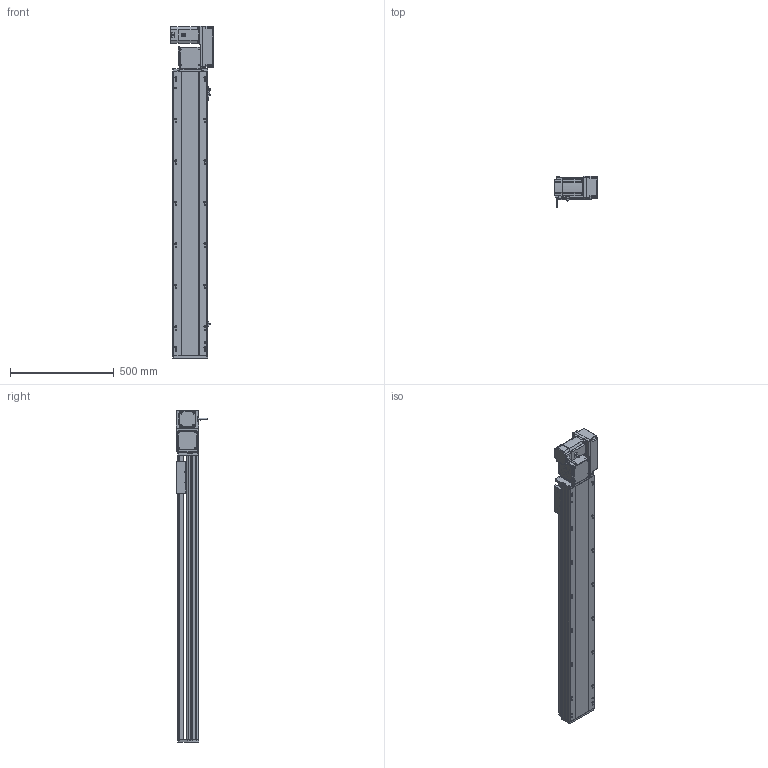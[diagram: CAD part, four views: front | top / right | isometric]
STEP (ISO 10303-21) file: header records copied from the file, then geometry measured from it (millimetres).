
FILE_DESCRIPTION (( 'STEP AP214' ), '1' );
FILE_NAME ('RTB17S-XX-1100-R-M75-C4.STEP', '2025-12-12T01:36:12', ( '' ), ( '' ), 'SwSTEP 2.0', 'SolidWorks 2018', '' );
FILE_SCHEMA (( 'AUTOMOTIVE_DESIGN' ));
Length unit declared in the file: millimetre
Products named in the file (15): RTB17S-R-々湍釱蚾饜-750W^RTB17S-XX-XX-R-M75-C4; RTB17-R-011菁釱^RTB17S-XX-XX-R-M75-C4; RTB22S-GY-017P^RTB17S-R-々湍釱蚾饜-750W_RTB17S-XX-XX-R-M75-C4; RTB17S-賑釱^RTB17S-XX-XX-R-M75-C4; RTB22S-GY-018P^RTB17S-R-々湍釱蚾饜-750W_RTB17S-XX-XX-R-M75-C4; RTB17S-L-004-賑釱^RTB17S-賑釱_RTB17S-XX-XX-R-M75-C4; RTB17S-L-001-耜醱啣^RTB17S-XX-XX-R-M75-C4; EE672^RTB17S-XX-XX-R-M75-C4; RTB22S-GY-008-M75--萇儂啣^RTB17S-R-々湍釱蚾饜-750W_RTB17S-XX-XX-R-M75-C4; RTB17S-L-014-T20-P75--々湍釱^RTB17S-R-々湍釱蚾饜-750W_RTB17S-XX-XX-R-M75-C4; RTB17S-XX-1100-R-M75-C4; 750W萇儂^RTB17S-XX-XX-R-M75-C4; RTB22S-GY-005P^RTB17S-R-々湍釱蚾饜-750W_RTB17S-XX-XX-R-M75-C4; RTH13-BL-012覜茼え俋离^RTB17S-賑釱_RTB17S-XX-XX-R-M75-C4; RTB17S-L-007奻裔^RTB17S-XX-XX-R-M75-C4
Assembly tree (17 placements, depth 3):
  RTB17S-XX-1100-R-M75-C4
    RTB17-R-011菁釱^RTB17S-XX-XX-R-M75-C4
    EE672^RTB17S-XX-XX-R-M75-C4  x3
    RTB17S-L-001-耜醱啣^RTB17S-XX-XX-R-M75-C4
    RTB17S-賑釱^RTB17S-XX-XX-R-M75-C4
      RTB17S-L-004-賑釱^RTB17S-賑釱_RTB17S-XX-XX-R-M75-C4
      RTH13-BL-012覜茼え俋离^RTB17S-賑釱_RTB17S-XX-XX-R-M75-C4
    RTB17S-L-007奻裔^RTB17S-XX-XX-R-M75-C4
    750W萇儂^RTB17S-XX-XX-R-M75-C4
    RTB17S-R-々湍釱蚾饜-750W^RTB17S-XX-XX-R-M75-C4
      RTB17S-L-014-T20-P75--々湍釱^RTB17S-R-々湍釱蚾饜-750W_RTB17S-XX-XX-R-M75-C4
      RTB22S-GY-005P^RTB17S-R-々湍釱蚾饜-750W_RTB17S-XX-XX-R-M75-C4
      RTB22S-GY-017P^RTB17S-R-々湍釱蚾饜-750W_RTB17S-XX-XX-R-M75-C4  x2
      RTB22S-GY-008-M75--萇儂啣^RTB17S-R-々湍釱蚾饜-750W_RTB17S-XX-XX-R-M75-C4
      RTB22S-GY-018P^RTB17S-R-々湍釱蚾饜-750W_RTB17S-XX-XX-R-M75-C4
Bounding box: 207.4 x 152.7 x 1599 mm (x, y, z)
Volume: 12823633.8 mm3; surface area: 2194651.3 mm2
Topology: 17 solids, 17 shells, 2105 faces, 5836 edges, 3770 vertices
Faces by surface type: plane 972, cylinder 717, bspline 294, cone 110, sphere 8, torus 4
Entity records: 58870 total; most frequent: CARTESIAN_POINT 17300, ORIENTED_EDGE 8516, DIRECTION 7952, EDGE_CURVE 4258, AXIS2_PLACEMENT_3D 2790, VERTEX_POINT 2774, LINE 2372, VECTOR 2372
